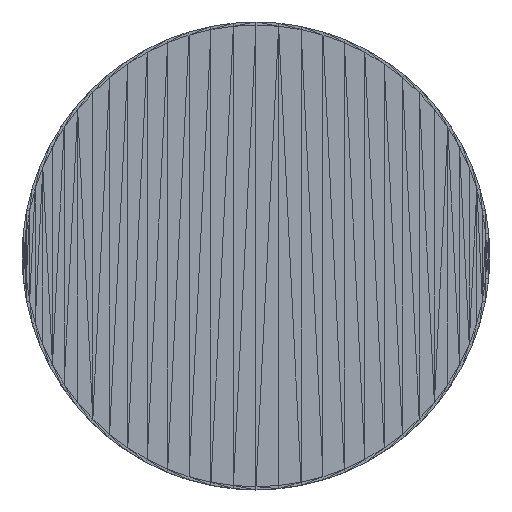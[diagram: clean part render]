
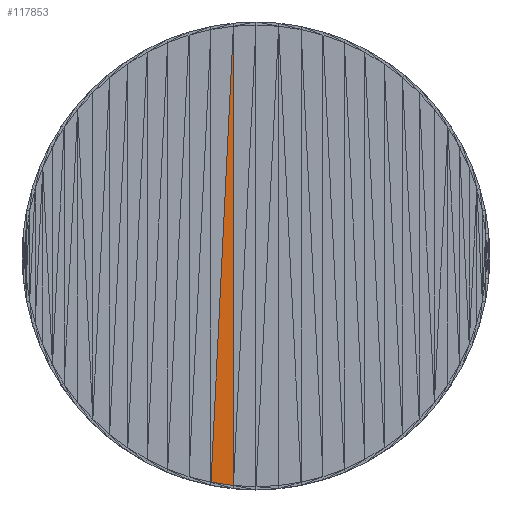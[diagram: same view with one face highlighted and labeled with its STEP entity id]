
A CAD part, top view. The second image highlights one B-rep face of the part: STEP entity #117853.
In plain terms, the highlighted planar face has unit normal (0, 0, 1).
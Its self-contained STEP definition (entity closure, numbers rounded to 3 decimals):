
#112927 = VERTEX_POINT('',#112928);
#112928 = CARTESIAN_POINT('',(250.272,21.34,
    160.));
#113003 = PLANE('',#113004);
#113004 = AXIS2_PLACEMENT_3D('',#113005,#113006,#113007);
#113005 = CARTESIAN_POINT('',(264.161,19.28,
    159.483));
#113006 = DIRECTION('',(-0.147,-0.989,
    0.));
#113007 = DIRECTION('',(-0.989,0.147,0.));
#114446 = VERTEX_POINT('',#114447);
#114447 = CARTESIAN_POINT('',(279.006,606.227,
    160.));
#114461 = PLANE('',#114462);
#114462 = AXIS2_PLACEMENT_3D('',#114463,#114464,#114465);
#114463 = CARTESIAN_POINT('',(257.66,319.804,
    160.));
#114464 = DIRECTION('',(0.,0.,1.));
#114465 = DIRECTION('',(1.,0.,-0.));
#114577 = PLANE('',#114578);
#114578 = AXIS2_PLACEMENT_3D('',#114579,#114580,#114581);
#114579 = CARTESIAN_POINT('',(286.446,319.093,
    160.));
#114580 = DIRECTION('',(0.,0.,1.));
#114581 = DIRECTION('',(1.,0.,-0.));
#116568 = VERTEX_POINT('',#116569);
#116569 = CARTESIAN_POINT('',(279.006,17.078,
    160.));
#117827 = EDGE_CURVE('',#112927,#114446,#117828,.T.);
#117828 = SURFACE_CURVE('',#117829,(#117833,#117840),.PCURVE_S1.);
#117829 = LINE('',#117830,#117831);
#117830 = CARTESIAN_POINT('',(250.272,21.34,
    160.));
#117831 = VECTOR('',#117832,1.);
#117832 = DIRECTION('',(0.049,0.999,0.));
#117833 = PCURVE('',#114461,#117834);
#117834 = DEFINITIONAL_REPRESENTATION('',(#117835),#117839);
#117835 = LINE('',#117836,#117837);
#117836 = CARTESIAN_POINT('',(-7.388,-298.464));
#117837 = VECTOR('',#117838,1.);
#117838 = DIRECTION('',(0.049,0.999));
#117839 = ( GEOMETRIC_REPRESENTATION_CONTEXT(2) 
PARAMETRIC_REPRESENTATION_CONTEXT() REPRESENTATION_CONTEXT('2D SPACE',''
  ) );
#117840 = PCURVE('',#117841,#117846);
#117841 = PLANE('',#117842);
#117842 = AXIS2_PLACEMENT_3D('',#117843,#117844,#117845);
#117843 = CARTESIAN_POINT('',(271.67,305.632,
    160.));
#117844 = DIRECTION('',(0.,0.,1.));
#117845 = DIRECTION('',(1.,0.,0.));
#117846 = DEFINITIONAL_REPRESENTATION('',(#117847),#117851);
#117847 = LINE('',#117848,#117849);
#117848 = CARTESIAN_POINT('',(-21.398,-284.292));
#117849 = VECTOR('',#117850,1.);
#117850 = DIRECTION('',(0.049,0.999));
#117851 = ( GEOMETRIC_REPRESENTATION_CONTEXT(2) 
PARAMETRIC_REPRESENTATION_CONTEXT() REPRESENTATION_CONTEXT('2D SPACE',''
  ) );
#117853 = ADVANCED_FACE('',(#117854),#117841,.T.);
#117854 = FACE_BOUND('',#117855,.T.);
#117855 = EDGE_LOOP('',(#117856,#117857,#117878));
#117856 = ORIENTED_EDGE('',*,*,#117827,.F.);
#117857 = ORIENTED_EDGE('',*,*,#117858,.T.);
#117858 = EDGE_CURVE('',#112927,#116568,#117859,.T.);
#117859 = SURFACE_CURVE('',#117860,(#117864,#117871),.PCURVE_S1.);
#117860 = LINE('',#117861,#117862);
#117861 = CARTESIAN_POINT('',(250.272,21.34,
    160.));
#117862 = VECTOR('',#117863,1.);
#117863 = DIRECTION('',(0.989,-0.147,0.));
#117864 = PCURVE('',#117841,#117865);
#117865 = DEFINITIONAL_REPRESENTATION('',(#117866),#117870);
#117866 = LINE('',#117867,#117868);
#117867 = CARTESIAN_POINT('',(-21.398,-284.292));
#117868 = VECTOR('',#117869,1.);
#117869 = DIRECTION('',(0.989,-0.147));
#117870 = ( GEOMETRIC_REPRESENTATION_CONTEXT(2) 
PARAMETRIC_REPRESENTATION_CONTEXT() REPRESENTATION_CONTEXT('2D SPACE',''
  ) );
#117871 = PCURVE('',#113003,#117872);
#117872 = DEFINITIONAL_REPRESENTATION('',(#117873),#117877);
#117873 = LINE('',#117874,#117875);
#117874 = CARTESIAN_POINT('',(14.041,-0.517));
#117875 = VECTOR('',#117876,1.);
#117876 = DIRECTION('',(-1.,0.));
#117877 = ( GEOMETRIC_REPRESENTATION_CONTEXT(2) 
PARAMETRIC_REPRESENTATION_CONTEXT() REPRESENTATION_CONTEXT('2D SPACE',''
  ) );
#117878 = ORIENTED_EDGE('',*,*,#117879,.T.);
#117879 = EDGE_CURVE('',#116568,#114446,#117880,.T.);
#117880 = SURFACE_CURVE('',#117881,(#117885,#117892),.PCURVE_S1.);
#117881 = LINE('',#117882,#117883);
#117882 = CARTESIAN_POINT('',(279.006,17.078,
    160.));
#117883 = VECTOR('',#117884,1.);
#117884 = DIRECTION('',(0.,1.,0.));
#117885 = PCURVE('',#117841,#117886);
#117886 = DEFINITIONAL_REPRESENTATION('',(#117887),#117891);
#117887 = LINE('',#117888,#117889);
#117888 = CARTESIAN_POINT('',(7.336,-288.555));
#117889 = VECTOR('',#117890,1.);
#117890 = DIRECTION('',(0.,1.));
#117891 = ( GEOMETRIC_REPRESENTATION_CONTEXT(2) 
PARAMETRIC_REPRESENTATION_CONTEXT() REPRESENTATION_CONTEXT('2D SPACE',''
  ) );
#117892 = PCURVE('',#114577,#117893);
#117893 = DEFINITIONAL_REPRESENTATION('',(#117894),#117898);
#117894 = LINE('',#117895,#117896);
#117895 = CARTESIAN_POINT('',(-7.44,-302.015));
#117896 = VECTOR('',#117897,1.);
#117897 = DIRECTION('',(0.,1.));
#117898 = ( GEOMETRIC_REPRESENTATION_CONTEXT(2) 
PARAMETRIC_REPRESENTATION_CONTEXT() REPRESENTATION_CONTEXT('2D SPACE',''
  ) );
